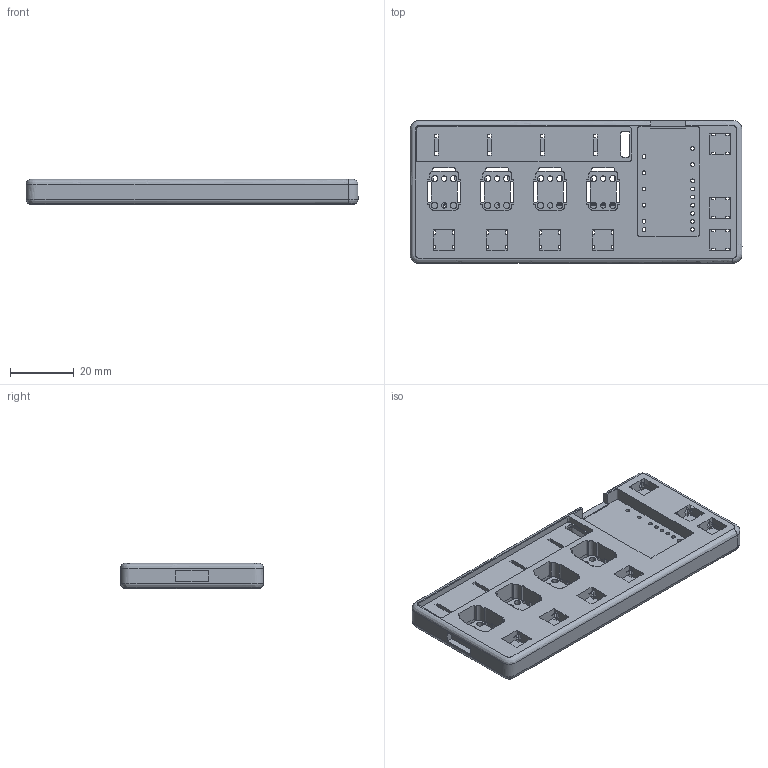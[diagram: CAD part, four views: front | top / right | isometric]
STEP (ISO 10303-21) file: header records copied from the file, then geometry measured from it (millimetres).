
FILE_DESCRIPTION(/* description */ (''),/* implementation_level */ '2;1');
FILE_NAME(/* name */ 'leet_control_stp',/* time_stamp */ '2020-11-05T16:38:14+01:00',/* author */ (''),/* organization */ (''),/* preprocessor_version */ 'ST-DEVELOPER v10',/* originating_system */ '',/* authorisation */ '');
FILE_SCHEMA (('CONFIG_CONTROL_DESIGN'));
Length unit declared in the file: millimetre
Products named in the file (1): 1
Bounding box: 104.1 x 44.8 x 8 mm (x, y, z)
Volume: 26136.8 mm3; surface area: 17920.2 mm2
Topology: 1 solids, 1 shells, 1280 faces, 3870 edges, 2381 vertices
Faces by surface type: plane 797, bspline 483
Entity records: 61092 total; most frequent: CARTESIAN_POINT 37389, ORIENTED_EDGE 7468, EDGE_CURVE 3734, B_SPLINE_CURVE_WITH_KNOTS 3296, VERTEX_POINT 2381, EDGE_LOOP 1379, ADVANCED_FACE 1280, FACE_OUTER_BOUND 1280
